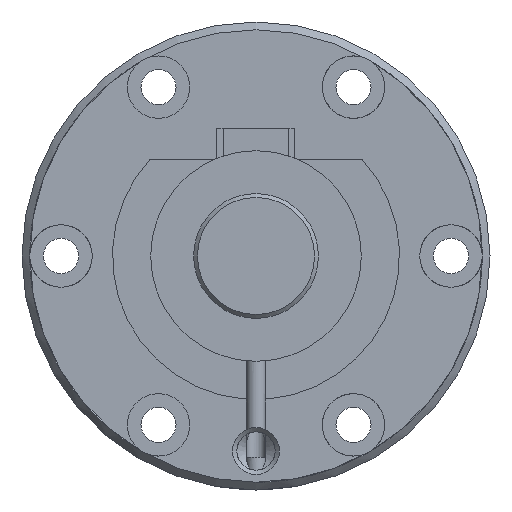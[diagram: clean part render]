
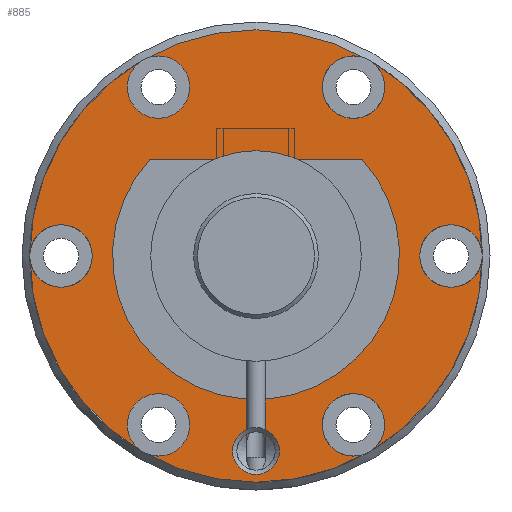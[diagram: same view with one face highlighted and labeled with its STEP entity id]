
A CAD part, left-side view. The second image highlights one B-rep face of the part: STEP entity #885.
In plain terms, the highlighted planar face has unit normal (1, 0, 0).
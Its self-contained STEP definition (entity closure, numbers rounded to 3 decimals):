
#22=LINE('',#1528,#46);
#46=VECTOR('',#1199,1000.);
#94=PLANE('',#1005);
#173=ORIENTED_EDGE('',*,*,#366,.T.);
#174=ORIENTED_EDGE('',*,*,#367,.T.);
#175=ORIENTED_EDGE('',*,*,#368,.F.);
#176=ORIENTED_EDGE('',*,*,#369,.F.);
#177=ORIENTED_EDGE('',*,*,#370,.F.);
#178=ORIENTED_EDGE('',*,*,#371,.F.);
#179=ORIENTED_EDGE('',*,*,#372,.F.);
#180=ORIENTED_EDGE('',*,*,#373,.F.);
#181=ORIENTED_EDGE('',*,*,#374,.F.);
#366=EDGE_CURVE('',#465,#465,#549,.F.);
#367=EDGE_CURVE('',#466,#466,#550,.T.);
#368=EDGE_CURVE('',#467,#468,#551,.T.);
#369=EDGE_CURVE('',#468,#467,#22,.T.);
#370=EDGE_CURVE('',#469,#469,#552,.T.);
#371=EDGE_CURVE('',#470,#470,#553,.T.);
#372=EDGE_CURVE('',#471,#471,#554,.T.);
#373=EDGE_CURVE('',#472,#472,#555,.T.);
#374=EDGE_CURVE('',#473,#473,#556,.T.);
#465=VERTEX_POINT('',#1522);
#466=VERTEX_POINT('',#1524);
#467=VERTEX_POINT('',#1526);
#468=VERTEX_POINT('',#1527);
#469=VERTEX_POINT('',#1530);
#470=VERTEX_POINT('',#1532);
#471=VERTEX_POINT('',#1534);
#472=VERTEX_POINT('',#1536);
#473=VERTEX_POINT('',#1538);
#549=CIRCLE('',#1006,2.25);
#550=CIRCLE('',#1007,29.);
#551=CIRCLE('',#1008,18.4);
#552=CIRCLE('',#1009,2.25);
#553=CIRCLE('',#1010,2.25);
#554=CIRCLE('',#1011,2.25);
#555=CIRCLE('',#1012,2.25);
#556=CIRCLE('',#1013,2.25);
#623=EDGE_LOOP('',(#173));
#624=EDGE_LOOP('',(#174));
#625=EDGE_LOOP('',(#175,#176));
#626=EDGE_LOOP('',(#177));
#627=EDGE_LOOP('',(#178));
#628=EDGE_LOOP('',(#179));
#629=EDGE_LOOP('',(#180));
#630=EDGE_LOOP('',(#181));
#747=FACE_BOUND('',#623,.T.);
#748=FACE_BOUND('',#624,.T.);
#749=FACE_BOUND('',#625,.T.);
#750=FACE_BOUND('',#626,.T.);
#751=FACE_BOUND('',#627,.T.);
#752=FACE_BOUND('',#628,.T.);
#753=FACE_BOUND('',#629,.T.);
#754=FACE_BOUND('',#630,.T.);
#885=ADVANCED_FACE('',(#747,#748,#749,#750,#751,#752,#753,#754),#94,.T.);
#1005=AXIS2_PLACEMENT_3D('',#1520,#1191,#1192);
#1006=AXIS2_PLACEMENT_3D('',#1521,#1193,#1194);
#1007=AXIS2_PLACEMENT_3D('',#1523,#1195,#1196);
#1008=AXIS2_PLACEMENT_3D('',#1525,#1197,#1198);
#1009=AXIS2_PLACEMENT_3D('',#1529,#1200,#1201);
#1010=AXIS2_PLACEMENT_3D('',#1531,#1202,#1203);
#1011=AXIS2_PLACEMENT_3D('',#1533,#1204,#1205);
#1012=AXIS2_PLACEMENT_3D('',#1535,#1206,#1207);
#1013=AXIS2_PLACEMENT_3D('',#1537,#1208,#1209);
#1191=DIRECTION('',(1.,0.,0.));
#1192=DIRECTION('',(0.,0.,-1.));
#1193=DIRECTION('',(1.,0.,0.));
#1194=DIRECTION('',(0.,0.,-1.));
#1195=DIRECTION('',(1.,0.,0.));
#1196=DIRECTION('',(0.,0.,-1.));
#1197=DIRECTION('',(1.,0.,0.));
#1198=DIRECTION('',(0.,0.,-1.));
#1199=DIRECTION('',(0.,-1.,0.));
#1200=DIRECTION('',(1.,0.,0.));
#1201=DIRECTION('',(0.,0.,-1.));
#1202=DIRECTION('',(1.,0.,0.));
#1203=DIRECTION('',(0.,0.,-1.));
#1204=DIRECTION('',(1.,0.,0.));
#1205=DIRECTION('',(0.,0.,-1.));
#1206=DIRECTION('',(1.,0.,0.));
#1207=DIRECTION('',(0.,0.,-1.));
#1208=DIRECTION('',(1.,0.,0.));
#1209=DIRECTION('',(0.,0.,-1.));
#1520=CARTESIAN_POINT('',(10.,13.5,0.));
#1521=CARTESIAN_POINT('',(10.,25.,0.));
#1522=CARTESIAN_POINT('',(10.,25.,-2.25));
#1523=CARTESIAN_POINT('',(10.,0.,0.));
#1524=CARTESIAN_POINT('',(10.,0.,-29.));
#1525=CARTESIAN_POINT('',(10.,0.,0.));
#1526=CARTESIAN_POINT('',(10.,-13.594,12.4));
#1527=CARTESIAN_POINT('',(10.,13.594,12.4));
#1528=CARTESIAN_POINT('',(10.,24.,12.4));
#1529=CARTESIAN_POINT('',(10.,12.5,-21.651));
#1530=CARTESIAN_POINT('',(10.,12.5,-23.901));
#1531=CARTESIAN_POINT('',(10.,-12.5,-21.651));
#1532=CARTESIAN_POINT('',(10.,-12.5,-23.901));
#1533=CARTESIAN_POINT('',(10.,-25.,0.));
#1534=CARTESIAN_POINT('',(10.,-25.,-2.25));
#1535=CARTESIAN_POINT('',(10.,-12.5,21.651));
#1536=CARTESIAN_POINT('',(10.,-12.5,19.401));
#1537=CARTESIAN_POINT('',(10.,12.5,21.651));
#1538=CARTESIAN_POINT('',(10.,12.5,19.401));
